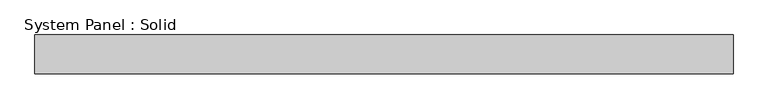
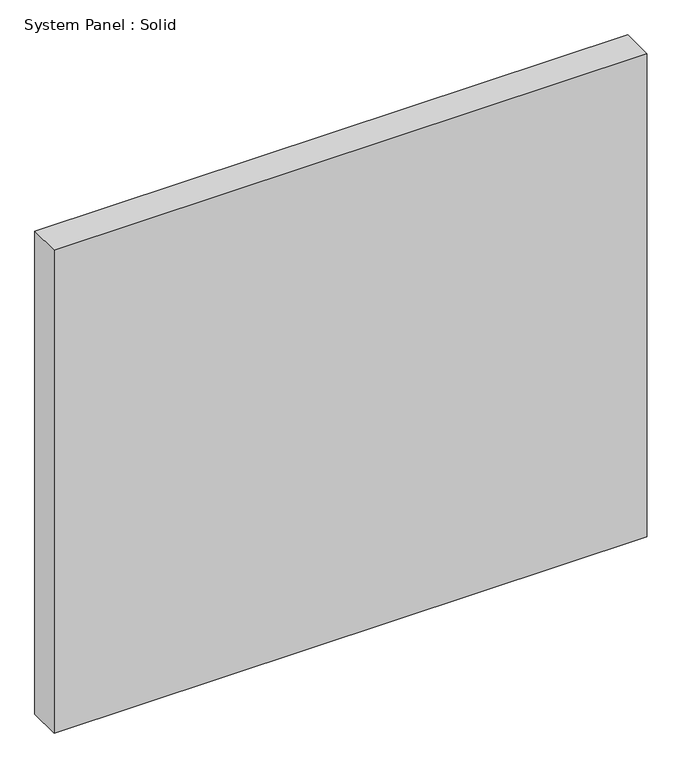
"""IFC4 building model written with IfcOpenShell, lengths in millimetres: plate geometry, System Panel : Solid."""

from ifc_helpers import new_model, si_unit, origin, origin_with_axes, place, context, project, spatial, polyline, outline, extrude, source, transform, mapped, element, save


def system_panel_solid_9660e4da(model_context):
    return source(origin(), model_context, "Body", "SweptSolid", [
        extrude(outline(polyline([(537.4999999, -10.5), (-537.4999999, -10.5), (-537.4999999, 49.5), (537.4999999, 49.5), (537.4999999, -10.5)])), origin_with_axes(), (0.0, 0.0, 1.0), 925.0),
    ])


if __name__ == "__main__":
    model = new_model("IFC4")
    model_context = context("Model", 3, world=origin())
    ifc_project = project(units=[si_unit("LENGTHUNIT", "METRE", prefix="MILLI")], contexts=[model_context])
    site = spatial("IfcSite", under=ifc_project)
    building = spatial("IfcBuilding", under=site)
    placement = place(None, origin())
    system_panel_solid_shape = system_panel_solid_9660e4da(model_context)
    element("IfcPlate", 1, ObjectType="System Panel : Solid", at=placement, inside=building, context=model_context, shape_type="MappedRepresentation", body=[
        mapped(system_panel_solid_shape, transform((0.0, 0.0, 0.0), x_axis=(1.0, 0.0, 0.0), y_axis=(0.0, 1.0, 0.0), z_axis=(0.0, 0.0, 1.0))),
    ])
    save(model, "model.ifc")
